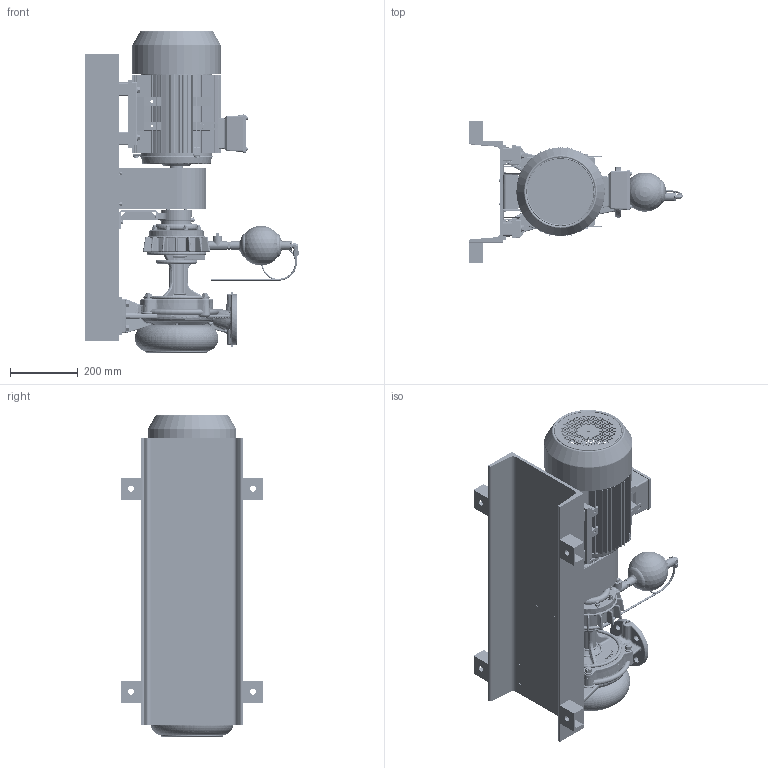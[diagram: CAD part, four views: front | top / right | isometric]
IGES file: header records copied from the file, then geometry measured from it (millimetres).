
Start section: 3D InterOp IGES (v. 2020 1.0.0), Spatial Corp. Copyright (c) 1999-2017.
Global section: file name: ESLHT40-180N_A17W180.igs; native system: Spatial Corp.; preprocessor: 3D InterOp ACIS/IGES; author: Noname; organization: Noname; date: 20220113.111239; units: millimetre
Bounding box: 631.29 x 420 x 953.47 mm (x, y, z)
Volume: 51716250.4 mm3; surface area: 4998719.4 mm2
Topology: 139 solids, 139 shells, 6829 faces, 18060 edges, 11469 vertices
Faces by surface type: plane 2834, cylinder 1560, bspline 1178, cone 681, torus 274, extrusion 238, sphere 62, revolution 2
Full cylindrical faces by diameter (mm): 1 x4, 5 x4, 7 x1, 8.4 x6, 10.106 x1, 12 x8, 14 x10, 14.475 x2, 16 x3, 30 x2, 30.4 x2, 36 x1, 38 x1, 40 x1, 62 x1, 160 x1, 184 x1, 190 x1, 198 x1, 210 x1, 259 x1, 261.5 x1
